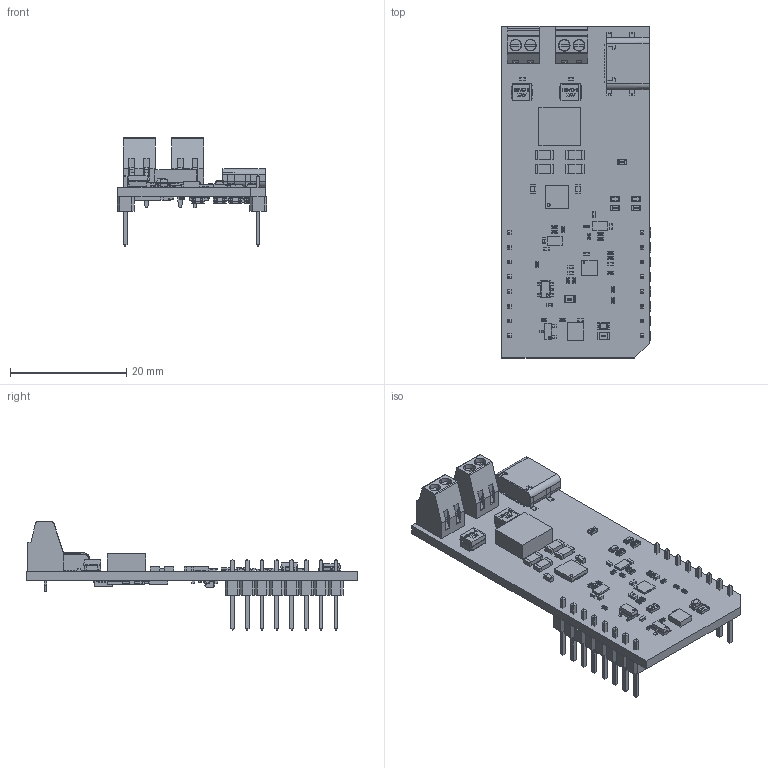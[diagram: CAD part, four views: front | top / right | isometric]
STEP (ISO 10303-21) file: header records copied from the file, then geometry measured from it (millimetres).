
FILE_DESCRIPTION(('Open CASCADE Model'),'2;1');
FILE_NAME('Open CASCADE Shape Model','2026-03-30T15:33:39',('Author'),( 'Open CASCADE'),'Open CASCADE STEP processor 6.8','Open CASCADE 6.8' ,'Unknown');
FILE_SCHEMA(('AUTOMOTIVE_DESIGN { 1 0 10303 214 1 1 1 1 }'));
Length unit declared in the file: millimetre
Products named in the file (148): PCB; Board; U7; User_Library-SOT23-5-2; R32; User_Library-R_0402; R31; User_Library-R_0603; R30; LD3; Led_0603_RED; C29; User_Library-SMD_CAPACITOR0402; R19; L1; 1432380744; Extruded; U6; ACT5101QI102-T; U5; QFN-16; TB2; ScrewTerminal_2.54; R29; User_Library-R_0805; R28; CircuitWorks-RESISTOR_2512; R27; R26; R25; User_Library-R_2512; R24; R23; R22; R21; R20; LD2; JP3; C28; User_Library-SMD_CAPACITOR0805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
Assembly tree (231 placements, depth 10):
  PCB
    Board
    U7
      User_Library-SOT23-5-2
    R32
      User_Library-R_0402
    R31
      User_Library-R_0603
    R30
      User_Library-R_0402
    LD3
      Led_0603_RED
    C29
      User_Library-SMD_CAPACITOR0402
    R19
      User_Library-R_0603
    L1
      1432380744
        Extruded
    U6
      ACT5101QI102-T
    U5
      QFN-16
    TB2
      ScrewTerminal_2.54
    R29
      User_Library-R_0805
    R28
      CircuitWorks-RESISTOR_2512
    R27
      User_Library-R_0805
    R26
      User_Library-R_0805
    R25
      User_Library-R_2512
    R24
      User_Library-R_0805
    R23
      User_Library-R_0402
    R22
      User_Library-R_0402
    R21
      User_Library-R_0402
    R20
      User_Library-R_0402
    LD2
      Led_0603_RED
    JP3
      User_Library-R_0603
    C28
      User_Library-SMD_CAPACITOR0805
    C27
      User_Library-SMD_CAPACITOR0805
    C26
      User_Library-SMD_CAPACITOR0402
    C25
      User_Library-SMD_CAPACITOR0402
    C24
      User_Library-SMD_CAPACITOR1206
    C23
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Bounding box: 25.78 x 57.15 x 18.61 mm (x, y, z)
Volume: 3609.6 mm3; surface area: 7485.1 mm2
Topology: 289 solids, 289 shells, 9286 faces, 23601 edges, 14970 vertices
Faces by surface type: plane 5358, bspline 2533, cylinder 1091, sphere 302, torus 2
Full cylindrical faces by diameter (mm): 0.26 x2, 0.494 x1, 0.6 x2
Entity records: 112377 total; most frequent: CARTESIAN_POINT 28989, ORIENTED_EDGE 14208, DIRECTION 11714, EDGE_CURVE 7104, LINE 5386, VECTOR 5386, VERTEX_POINT 4636, AXIS2_PLACEMENT_3D 3164
